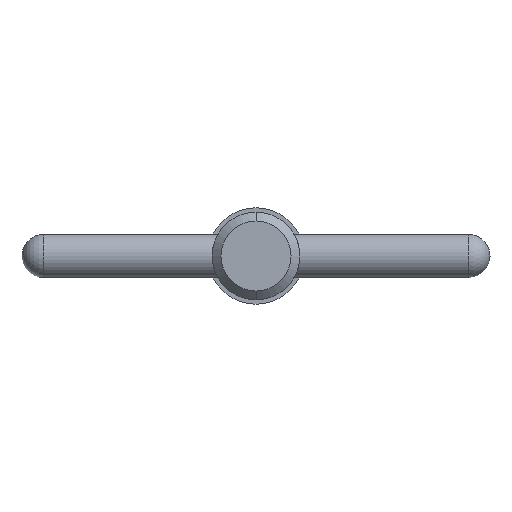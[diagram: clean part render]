
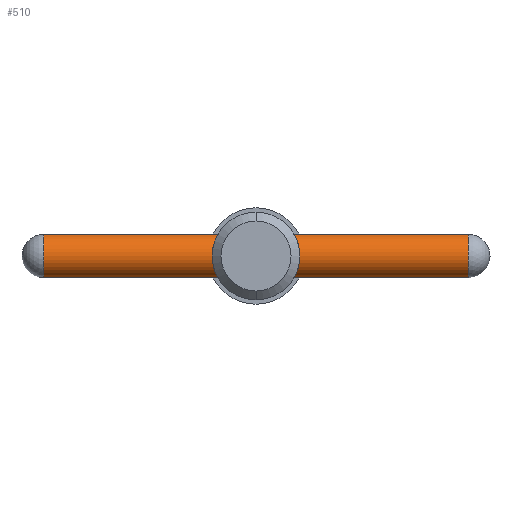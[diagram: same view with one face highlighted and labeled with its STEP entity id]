
A CAD part, left-side view. The second image highlights one B-rep face of the part: STEP entity #510.
In plain terms, the highlighted cylindrical face has radius 1.19 mm (diameter 2.38 mm), a partial arc.
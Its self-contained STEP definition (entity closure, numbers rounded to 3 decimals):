
#42 = ORIENTED_EDGE ( 'NONE', *, *, #259, .T. ) ;
#55 = CARTESIAN_POINT ( 'NONE',  ( 0., 12.7, -1.19 ) ) ;
#56 = AXIS2_PLACEMENT_3D ( 'NONE', #318, #240, #231 ) ;
#75 = CARTESIAN_POINT ( 'NONE',  ( 0., 11.51, 0. ) ) ;
#85 = VECTOR ( 'NONE', #126, 1000. ) ;
#90 = EDGE_CURVE ( 'NONE', #563, #401, #425, .T. ) ;
#104 = EDGE_CURVE ( 'NONE', #106, #657, #653, .T. ) ;
#106 = VERTEX_POINT ( 'NONE', #140 ) ;
#113 = FACE_OUTER_BOUND ( 'NONE', #789, .T. ) ;
#126 = DIRECTION ( 'NONE',  ( 0., -1., 0. ) ) ;
#140 = CARTESIAN_POINT ( 'NONE',  ( 0., 11.51, -1.19 ) ) ;
#170 = CARTESIAN_POINT ( 'NONE',  ( 0., 11.51, 1.19 ) ) ;
#185 = CARTESIAN_POINT ( 'NONE',  ( 0., -11.51, 0. ) ) ;
#231 = DIRECTION ( 'NONE',  ( 0., 0., -1. ) ) ;
#240 = DIRECTION ( 'NONE',  ( 0., -1., 0. ) ) ;
#259 = EDGE_CURVE ( 'NONE', #563, #106, #439, .T. ) ;
#318 = CARTESIAN_POINT ( 'NONE',  ( 0., 12.7, 0. ) ) ;
#344 = CIRCLE ( 'NONE', #715, 1.19 ) ;
#355 = DIRECTION ( 'NONE',  ( 0., -1., 0. ) ) ;
#370 = VECTOR ( 'NONE', #355, 1000. ) ;
#383 = CARTESIAN_POINT ( 'NONE',  ( 0., -11.51, 1.19 ) ) ;
#400 = CYLINDRICAL_SURFACE ( 'NONE', #56, 1.19 ) ;
#401 = VERTEX_POINT ( 'NONE', #383 ) ;
#406 = ORIENTED_EDGE ( 'NONE', *, *, #506, .T. ) ;
#425 = LINE ( 'NONE', #814, #370 ) ;
#439 = CIRCLE ( 'NONE', #619, 1.19 ) ;
#451 = DIRECTION ( 'NONE',  ( 0., -1., 0. ) ) ;
#506 = EDGE_CURVE ( 'NONE', #657, #401, #344, .T. ) ;
#510 = ADVANCED_FACE ( 'NONE', ( #113 ), #400, .T. ) ;
#546 = DIRECTION ( 'NONE',  ( 0., 0., -1. ) ) ;
#563 = VERTEX_POINT ( 'NONE', #170 ) ;
#619 = AXIS2_PLACEMENT_3D ( 'NONE', #75, #451, #765 ) ;
#653 = LINE ( 'NONE', #55, #85 ) ;
#657 = VERTEX_POINT ( 'NONE', #937 ) ;
#715 = AXIS2_PLACEMENT_3D ( 'NONE', #185, #788, #546 ) ;
#765 = DIRECTION ( 'NONE',  ( 0., 0., -1. ) ) ;
#788 = DIRECTION ( 'NONE',  ( 0., 1., 0. ) ) ;
#789 = EDGE_LOOP ( 'NONE', ( #895, #42, #856, #406 ) ) ;
#814 = CARTESIAN_POINT ( 'NONE',  ( 0., 12.7, 1.19 ) ) ;
#856 = ORIENTED_EDGE ( 'NONE', *, *, #104, .T. ) ;
#895 = ORIENTED_EDGE ( 'NONE', *, *, #90, .F. ) ;
#937 = CARTESIAN_POINT ( 'NONE',  ( 0., -11.51, -1.19 ) ) ;
